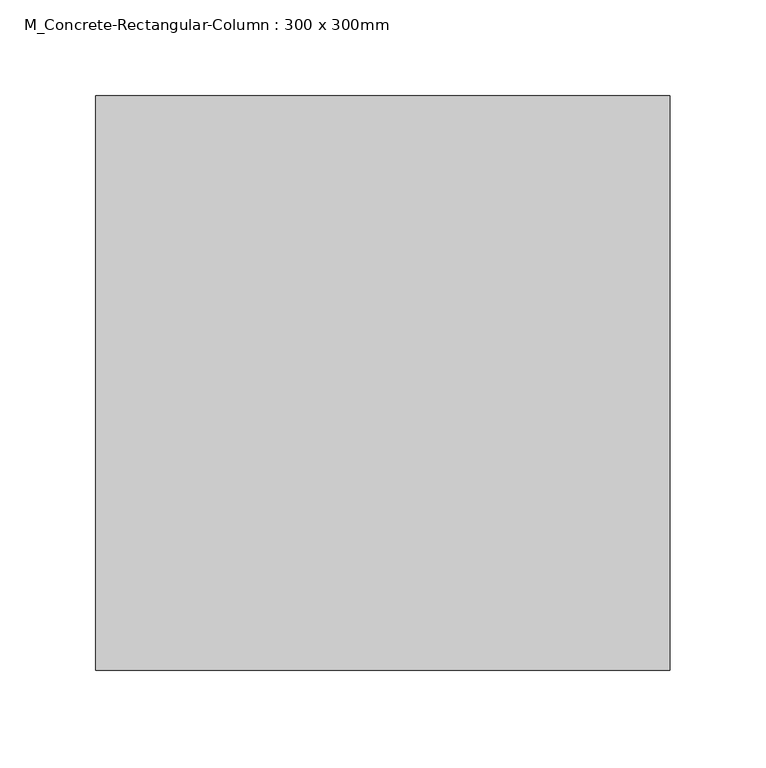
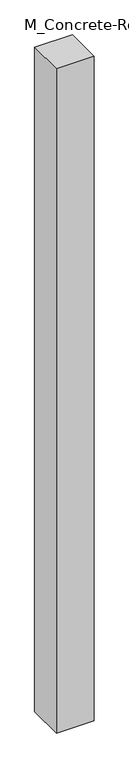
"""IFC4 building model written with IfcOpenShell, lengths in millimetres: column geometry, M_Concrete-Rectangular-Column : 300 x 300mm."""

from ifc_helpers import new_model, si_unit, frame, origin, place, context, project, spatial, polyline, outline, extrude, source, transform, mapped, element, save


def m_concrete_rectangular_column_300_x_300mm_2635544c(model_context):
    return source(origin(), model_context, "Body", "SweptSolid", [
        extrude(outline(polyline([(150.0, 150.0), (150.0, -150.0), (-150.0, -150.0), (-150.0, 150.0), (150.0, 150.0)])), frame((0.0, 0.0, -600.0), z_axis=(0.0, 0.0, 1.0), x_axis=(1.0, 0.0, 0.0)), (0.0, 0.0, 1.0), 5600.0),
    ])


if __name__ == "__main__":
    model = new_model("IFC4")
    model_context = context("Model", 3, world=origin())
    ifc_project = project(units=[si_unit("LENGTHUNIT", "METRE", prefix="MILLI")], contexts=[model_context])
    site = spatial("IfcSite", under=ifc_project)
    building = spatial("IfcBuilding", under=site)
    placement = place(None, origin())
    m_concrete_rectangular_column_300_x_300mm_shape = m_concrete_rectangular_column_300_x_300mm_2635544c(model_context)
    element("IfcColumn", 1, ObjectType="M_Concrete-Rectangular-Column : 300 x 300mm", at=placement, inside=building, context=model_context, shape_type="MappedRepresentation", body=[
        mapped(m_concrete_rectangular_column_300_x_300mm_shape, transform((0.0, 0.0, 0.0), x_axis=(1.0, 0.0, 0.0), y_axis=(0.0, 1.0, 0.0), z_axis=(0.0, 0.0, 1.0))),
    ])
    save(model, "model.ifc")
